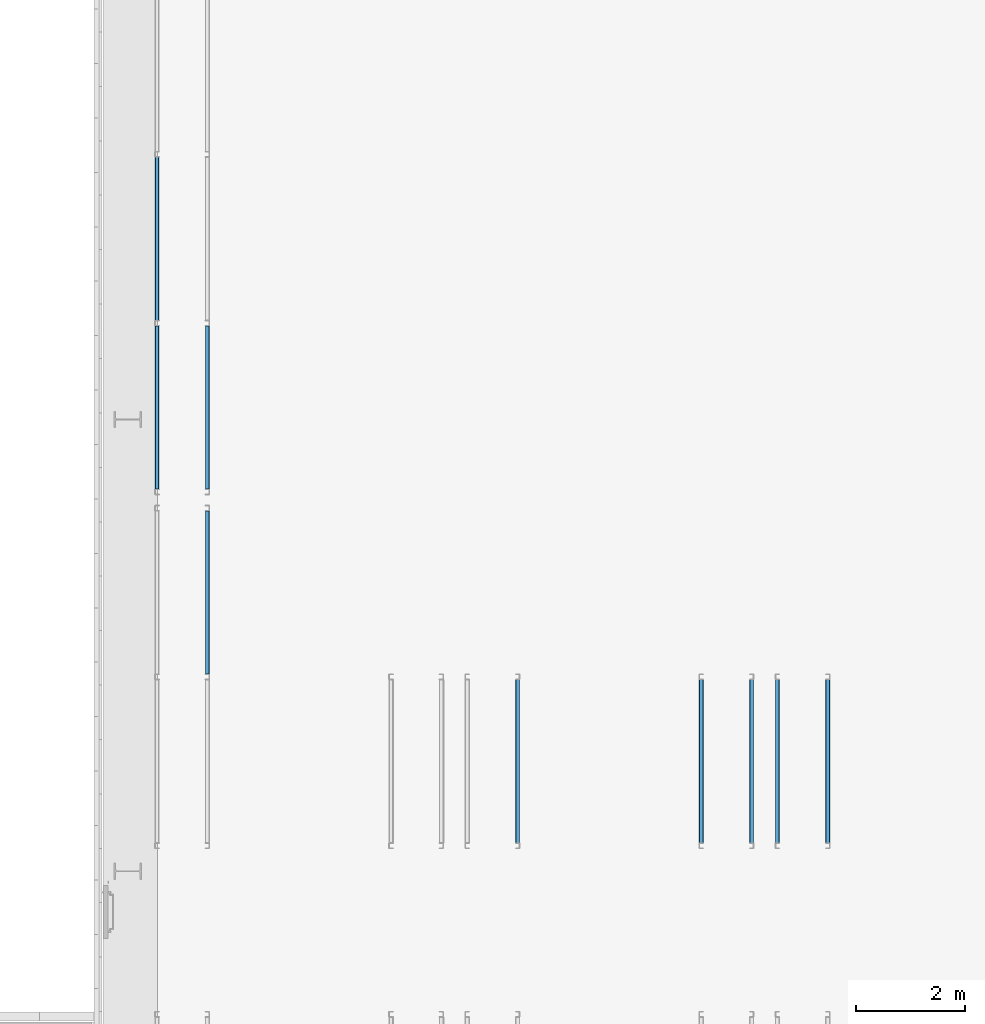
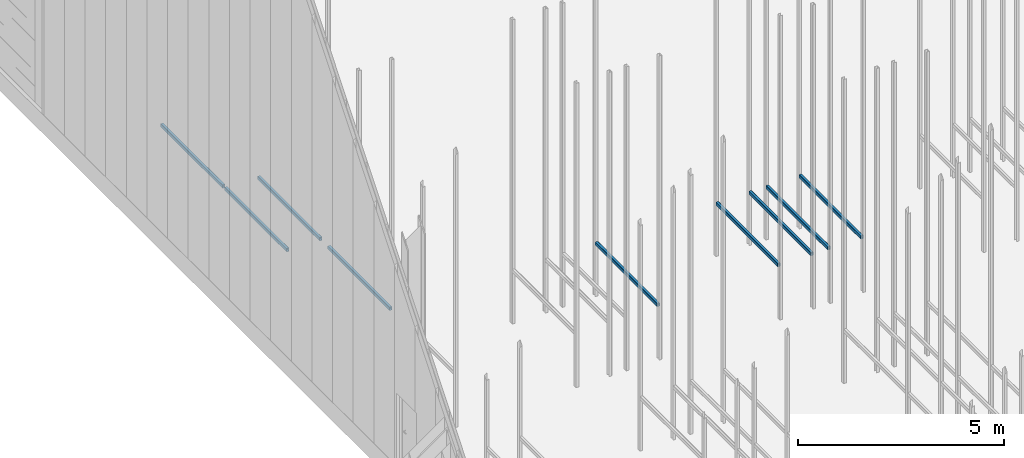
# One storey, part 154 of 302: 9 beams.
"""IFC2X3 building model written with IfcOpenShell, lengths in metres."""

from ifc_helpers import new_model, entity, si_unit, converted_unit, derived_unit, direction, frame, frame_2d, origin, place, context, subcontext, project, spatial, polyline, circle_curve, parameter, trimmed, segment, composite_curve, outline, extrude, material, type_object, element, save


model = new_model("IFC2X3")

# Units and contexts
model_context = context("Model", 3, precision=1e-05, world=origin(), true_north=direction((6.12303176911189e-17, 1.0)))
body_context = subcontext(model_context, "Body", "Model", "MODEL_VIEW")
ifc_project = project(units=[si_unit("LENGTHUNIT", "METRE"), si_unit("AREAUNIT", "SQUARE_METRE"), si_unit("VOLUMEUNIT", "CUBIC_METRE"), converted_unit("PLANEANGLEUNIT", "DEGREE", entity("IfcRatioMeasure", 0.0174532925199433), si_unit("PLANEANGLEUNIT", "RADIAN"), dimensions=[0, 0, 0, 0, 0, 0, 0]), si_unit("MASSUNIT", "GRAM", prefix="KILO"), derived_unit("MASSDENSITYUNIT", [(si_unit("MASSUNIT", "GRAM", prefix="KILO"), 1), (si_unit("LENGTHUNIT", "METRE"), -3)]), derived_unit("MOMENTOFINERTIAUNIT", [(si_unit("LENGTHUNIT", "METRE"), 4)]), si_unit("TIMEUNIT", "SECOND"), si_unit("FREQUENCYUNIT", "HERTZ"), si_unit("THERMODYNAMICTEMPERATUREUNIT", "DEGREE_CELSIUS"), derived_unit("THERMALTRANSMITTANCEUNIT", [(si_unit("MASSUNIT", "GRAM", prefix="KILO"), 1), (si_unit("THERMODYNAMICTEMPERATUREUNIT", "KELVIN"), -1), (si_unit("TIMEUNIT", "SECOND"), -3)]), derived_unit("VOLUMETRICFLOWRATEUNIT", [(si_unit("LENGTHUNIT", "METRE"), 3), (si_unit("TIMEUNIT", "SECOND"), -1)]), si_unit("ELECTRICCURRENTUNIT", "AMPERE"), si_unit("ELECTRICVOLTAGEUNIT", "VOLT"), si_unit("POWERUNIT", "WATT"), si_unit("FORCEUNIT", "NEWTON", prefix="KILO"), si_unit("ILLUMINANCEUNIT", "LUX"), si_unit("LUMINOUSFLUXUNIT", "LUMEN"), si_unit("LUMINOUSINTENSITYUNIT", "CANDELA"), derived_unit("USERDEFINED", [(si_unit("MASSUNIT", "GRAM", prefix="KILO"), -1), (si_unit("LENGTHUNIT", "METRE"), -2), (si_unit("TIMEUNIT", "SECOND"), 3), (si_unit("LUMINOUSFLUXUNIT", "LUMEN"), 1)]), derived_unit("LINEARVELOCITYUNIT", [(si_unit("LENGTHUNIT", "METRE"), 1), (si_unit("TIMEUNIT", "SECOND"), -1)]), si_unit("PRESSUREUNIT", "PASCAL"), derived_unit("USERDEFINED", [(si_unit("LENGTHUNIT", "METRE"), -2), (si_unit("MASSUNIT", "GRAM", prefix="KILO"), 1), (si_unit("TIMEUNIT", "SECOND"), -2)]), derived_unit("LINEARFORCEUNIT", [(si_unit("MASSUNIT", "GRAM", prefix="KILO"), 1), (si_unit("LENGTHUNIT", "METRE"), 1), (si_unit("TIMEUNIT", "SECOND"), -2), (si_unit("LENGTHUNIT", "METRE"), -1)]), derived_unit("PLANARFORCEUNIT", [(si_unit("MASSUNIT", "GRAM", prefix="KILO"), 1), (si_unit("LENGTHUNIT", "METRE"), 1), (si_unit("TIMEUNIT", "SECOND"), -2), (si_unit("LENGTHUNIT", "METRE"), -2)])], contexts=[model_context])

# Site, building, storey
site_placement = place(None, origin())
site = spatial("IfcSite", under=ifc_project, at=site_placement, Name="Default", CompositionType="ELEMENT")
building_placement = place(site_placement, origin())
building = spatial("IfcBuilding", under=site, at=building_placement, CompositionType="ELEMENT")
storey_placement = place(building_placement, frame((0.0, 0.0, -1.3)))
storey = spatial("IfcBuildingStorey", under=building, at=storey_placement, Name="00_EG", CompositionType="ELEMENT", Elevation=-1.3)

# Beams
ifc_material = material(Name="Metall - Baustahl S235 blau")
beam_type = type_object("IfcBeamType", Name="RHS Träger (EN 10219-2):RHS 100 x 75 x 5", PredefinedType="NOTDEFINED")
beam_1_placement = place(storey_placement, frame((-206.415111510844, 58.448088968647, 2.885), z_axis=(0.0, 0.0, 1.0), x_axis=(0.0, 1.0, 0.0)))
element("IfcBeam", 1, at=beam_1_placement, inside=storey, type_object=beam_type, material=ifc_material, Name="RHS Träger (EN 10219-2):RHS 100 x 75 x 5", ObjectType="RHS Träger (EN 10219-2):RHS 100 x 75 x 5", context=body_context, shape_type="SweptSolid", body=[
    extrude(outline(composite_curve([segment(trimmed(circle_curve(frame_2d((-0.0274999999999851, -0.0400000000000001), x_axis=(1.0, 0.0)), 0.01), [parameter(180.0)], [parameter(270.0)], True, "PARAMETER"), True, "CONTINUOUS"), segment(polyline([(-0.0274999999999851, -0.05), (0.0274999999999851, -0.05)]), True, "CONTINUOUS"), segment(trimmed(circle_curve(frame_2d((0.0274999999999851, -0.0400000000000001), x_axis=(1.0, 0.0)), 0.01), [parameter(270.0)], [parameter(5.08888749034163e-14)], True, "PARAMETER"), True, "CONTINUOUS"), segment(polyline([(0.0375000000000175, -0.0399999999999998), (0.0375000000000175, 0.0400000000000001)]), True, "CONTINUOUS"), segment(trimmed(circle_curve(frame_2d((0.0274999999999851, 0.0399999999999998), x_axis=(1.0, 0.0)), 0.01), [parameter(360.0)], [parameter(89.9999999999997)], True, "PARAMETER"), True, "CONTINUOUS"), segment(polyline([(0.0274999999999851, 0.05), (-0.0274999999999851, 0.05)]), True, "CONTINUOUS"), segment(trimmed(circle_curve(frame_2d((-0.0274999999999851, 0.0399999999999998), x_axis=(1.0, 0.0)), 0.01), [parameter(90.0000000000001)], [parameter(180.0)], True, "PARAMETER"), True, "CONTINUOUS"), segment(polyline([(-0.0374999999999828, 0.0400000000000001), (-0.0374999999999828, -0.0399999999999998)]), True, "CONTINUOUS")], self_intersect=False), holes=[composite_curve([segment(polyline([(0.0274999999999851, -0.0450000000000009), (-0.0274999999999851, -0.0450000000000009)]), True, "CONTINUOUS"), segment(trimmed(circle_curve(frame_2d((-0.0274999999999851, -0.0400000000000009), x_axis=(1.0, 0.0)), 0.005), [parameter(180.0)], [parameter(270.0)], True, "PARAMETER"), False, "CONTINUOUS"), segment(polyline([(-0.0325000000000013, -0.0400000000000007), (-0.0325000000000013, 0.0399999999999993)]), True, "CONTINUOUS"), segment(trimmed(circle_curve(frame_2d((-0.0274999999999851, 0.039999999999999), x_axis=(1.0, 0.0)), 0.005), [parameter(90.0000000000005)], [parameter(180.0)], True, "PARAMETER"), False, "CONTINUOUS"), segment(polyline([(-0.0274999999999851, 0.0449999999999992), (0.0274999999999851, 0.0449999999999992)]), True, "CONTINUOUS"), segment(trimmed(circle_curve(frame_2d((0.0274999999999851, 0.039999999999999), x_axis=(1.0, 0.0)), 0.005), [parameter(0.0)], [parameter(90.0000000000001)], True, "PARAMETER"), False, "CONTINUOUS"), segment(polyline([(0.0325000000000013, 0.0399999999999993), (0.0325000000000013, -0.0400000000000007)]), True, "CONTINUOUS"), segment(trimmed(circle_curve(frame_2d((0.0274999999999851, -0.0400000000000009), x_axis=(1.0, 0.0)), 0.005), [parameter(270.0)], [parameter(4.07110999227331e-13)], True, "PARAMETER"), False, "CONTINUOUS")], self_intersect=False)]), frame((0.000100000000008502, 0.0375000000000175, -0.0500000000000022), z_axis=(1.0, 0.0, 0.0), x_axis=(0.0, -1.0, 0.0)), (0.0, 0.0, 1.0), 2.99979999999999),
])
beam_2_placement = place(storey_placement, frame((-206.415111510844, 55.348088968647, 2.885), z_axis=(0.0, 0.0, 1.0), x_axis=(0.0, 1.0, 0.0)))
element("IfcBeam", 2, at=beam_2_placement, inside=storey, type_object=beam_type, material=ifc_material, Name="RHS Träger (EN 10219-2):RHS 100 x 75 x 5", ObjectType="RHS Träger (EN 10219-2):RHS 100 x 75 x 5", context=body_context, shape_type="SweptSolid", body=[
    extrude(outline(composite_curve([segment(trimmed(circle_curve(frame_2d((-0.0274999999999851, -0.0400000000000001), x_axis=(1.0, 0.0)), 0.01), [parameter(180.0)], [parameter(270.0)], True, "PARAMETER"), True, "CONTINUOUS"), segment(polyline([(-0.0274999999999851, -0.05), (0.0274999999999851, -0.05)]), True, "CONTINUOUS"), segment(trimmed(circle_curve(frame_2d((0.0274999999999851, -0.0400000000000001), x_axis=(1.0, 0.0)), 0.01), [parameter(270.0)], [parameter(5.08888749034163e-14)], True, "PARAMETER"), True, "CONTINUOUS"), segment(polyline([(0.0375000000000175, -0.0399999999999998), (0.0375000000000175, 0.0400000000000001)]), True, "CONTINUOUS"), segment(trimmed(circle_curve(frame_2d((0.0274999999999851, 0.0399999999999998), x_axis=(1.0, 0.0)), 0.01), [parameter(360.0)], [parameter(89.9999999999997)], True, "PARAMETER"), True, "CONTINUOUS"), segment(polyline([(0.0274999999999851, 0.05), (-0.0274999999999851, 0.05)]), True, "CONTINUOUS"), segment(trimmed(circle_curve(frame_2d((-0.0274999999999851, 0.0399999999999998), x_axis=(1.0, 0.0)), 0.01), [parameter(90.0000000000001)], [parameter(180.0)], True, "PARAMETER"), True, "CONTINUOUS"), segment(polyline([(-0.0374999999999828, 0.0400000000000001), (-0.0374999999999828, -0.0399999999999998)]), True, "CONTINUOUS")], self_intersect=False), holes=[composite_curve([segment(polyline([(0.0274999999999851, -0.0450000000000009), (-0.0274999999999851, -0.0450000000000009)]), True, "CONTINUOUS"), segment(trimmed(circle_curve(frame_2d((-0.0274999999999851, -0.0400000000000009), x_axis=(1.0, 0.0)), 0.005), [parameter(180.0)], [parameter(270.0)], True, "PARAMETER"), False, "CONTINUOUS"), segment(polyline([(-0.0325000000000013, -0.0400000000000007), (-0.0325000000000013, 0.0399999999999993)]), True, "CONTINUOUS"), segment(trimmed(circle_curve(frame_2d((-0.0274999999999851, 0.039999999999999), x_axis=(1.0, 0.0)), 0.005), [parameter(90.0000000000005)], [parameter(180.0)], True, "PARAMETER"), False, "CONTINUOUS"), segment(polyline([(-0.0274999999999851, 0.0449999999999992), (0.0274999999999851, 0.0449999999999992)]), True, "CONTINUOUS"), segment(trimmed(circle_curve(frame_2d((0.0274999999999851, 0.039999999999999), x_axis=(1.0, 0.0)), 0.005), [parameter(0.0)], [parameter(90.0000000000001)], True, "PARAMETER"), False, "CONTINUOUS"), segment(polyline([(0.0325000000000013, 0.0399999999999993), (0.0325000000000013, -0.0400000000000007)]), True, "CONTINUOUS"), segment(trimmed(circle_curve(frame_2d((0.0274999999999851, -0.0400000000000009), x_axis=(1.0, 0.0)), 0.005), [parameter(270.0)], [parameter(4.07110999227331e-13)], True, "PARAMETER"), False, "CONTINUOUS")], self_intersect=False)]), frame((9.99999999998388e-05, 0.0375000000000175, -0.0500000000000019), z_axis=(1.0, 0.0, 0.0), x_axis=(0.0, -1.0, 0.0)), (0.0, 0.0, 1.0), 2.99979999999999),
])
beam_3_placement = place(storey_placement, frame((-205.565111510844, 55.348088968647, 2.885), z_axis=(0.0, 0.0, 1.0), x_axis=(0.0, 1.0, 0.0)))
element("IfcBeam", 3, at=beam_3_placement, inside=storey, type_object=beam_type, material=ifc_material, Name="RHS Träger (EN 10219-2):RHS 100 x 75 x 5", ObjectType="RHS Träger (EN 10219-2):RHS 100 x 75 x 5", context=body_context, shape_type="SweptSolid", body=[
    extrude(outline(composite_curve([segment(polyline([(-0.0399999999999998, -0.0374999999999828), (0.0400000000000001, -0.0374999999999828)]), True, "CONTINUOUS"), segment(trimmed(circle_curve(frame_2d((0.0399999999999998, -0.0274999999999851), x_axis=(0.0, 1.0)), 0.01), [parameter(180.0)], [parameter(270.0)], True, "PARAMETER"), True, "CONTINUOUS"), segment(polyline([(0.05, -0.0274999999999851), (0.05, 0.0274999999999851)]), True, "CONTINUOUS"), segment(trimmed(circle_curve(frame_2d((0.0399999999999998, 0.0274999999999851), x_axis=(0.0, 1.0)), 0.01), [parameter(270.0)], [parameter(4.07110999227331e-13)], True, "PARAMETER"), True, "CONTINUOUS"), segment(polyline([(0.0400000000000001, 0.0375000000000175), (-0.0399999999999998, 0.0375000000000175)]), True, "CONTINUOUS"), segment(trimmed(circle_curve(frame_2d((-0.0400000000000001, 0.0274999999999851), x_axis=(0.0, 1.0)), 0.01), [parameter(360.0)], [parameter(90.0000000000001)], True, "PARAMETER"), True, "CONTINUOUS"), segment(polyline([(-0.05, 0.0274999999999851), (-0.05, -0.0274999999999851)]), True, "CONTINUOUS"), segment(trimmed(circle_curve(frame_2d((-0.0400000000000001, -0.0274999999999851), x_axis=(0.0, 1.0)), 0.01), [parameter(90.0000000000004)], [parameter(180.0)], True, "PARAMETER"), True, "CONTINUOUS")], self_intersect=False), holes=[composite_curve([segment(trimmed(circle_curve(frame_2d((-0.0400000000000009, 0.0274999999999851), x_axis=(0.0, 1.0)), 0.005), [parameter(360.0)], [parameter(89.9999999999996)], True, "PARAMETER"), False, "CONTINUOUS"), segment(polyline([(-0.0400000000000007, 0.0325000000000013), (0.0399999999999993, 0.0325000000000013)]), True, "CONTINUOUS"), segment(trimmed(circle_curve(frame_2d((0.039999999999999, 0.0274999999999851), x_axis=(0.0, 1.0)), 0.005), [parameter(270.0)], [parameter(0.0)], True, "PARAMETER"), False, "CONTINUOUS"), segment(polyline([(0.0449999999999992, 0.0274999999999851), (0.0449999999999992, -0.0274999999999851)]), True, "CONTINUOUS"), segment(trimmed(circle_curve(frame_2d((0.039999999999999, -0.0274999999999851), x_axis=(0.0, 1.0)), 0.005), [parameter(180.0)], [parameter(269.999999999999)], True, "PARAMETER"), False, "CONTINUOUS"), segment(polyline([(0.0399999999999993, -0.0325000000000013), (-0.0400000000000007, -0.0325000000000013)]), True, "CONTINUOUS"), segment(trimmed(circle_curve(frame_2d((-0.0400000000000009, -0.0274999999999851), x_axis=(0.0, 1.0)), 0.005), [parameter(90.0000000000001)], [parameter(180.0)], True, "PARAMETER"), False, "CONTINUOUS"), segment(polyline([(-0.0450000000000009, -0.0274999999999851), (-0.0450000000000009, 0.0274999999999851)]), True, "CONTINUOUS")], self_intersect=False)]), frame((9.99999999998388e-05, -0.0375000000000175, -0.0500000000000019), z_axis=(1.0, 0.0, 0.0), x_axis=(0.0, 0.0, -1.0)), (0.0, 0.0, 1.0), 2.99979999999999),
])
beam_4_placement = place(storey_placement, frame((-196.415111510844, 48.848088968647, 2.885), z_axis=(0.0, 0.0, 1.0), x_axis=(0.0, 1.0, 0.0)))
element("IfcBeam", 4, at=beam_4_placement, inside=storey, type_object=beam_type, material=ifc_material, Name="RHS Träger (EN 10219-2):RHS 100 x 75 x 5", ObjectType="RHS Träger (EN 10219-2):RHS 100 x 75 x 5", context=body_context, shape_type="SweptSolid", body=[
    extrude(outline(composite_curve([segment(trimmed(circle_curve(frame_2d((-0.0274999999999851, -0.0400000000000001), x_axis=(1.0, 0.0)), 0.01), [parameter(180.0)], [parameter(270.0)], True, "PARAMETER"), True, "CONTINUOUS"), segment(polyline([(-0.0274999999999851, -0.05), (0.0274999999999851, -0.05)]), True, "CONTINUOUS"), segment(trimmed(circle_curve(frame_2d((0.0274999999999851, -0.0400000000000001), x_axis=(1.0, 0.0)), 0.01), [parameter(270.0)], [parameter(5.08888749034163e-14)], True, "PARAMETER"), True, "CONTINUOUS"), segment(polyline([(0.0375000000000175, -0.0399999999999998), (0.0375000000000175, 0.0400000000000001)]), True, "CONTINUOUS"), segment(trimmed(circle_curve(frame_2d((0.0274999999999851, 0.0399999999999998), x_axis=(1.0, 0.0)), 0.01), [parameter(360.0)], [parameter(89.9999999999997)], True, "PARAMETER"), True, "CONTINUOUS"), segment(polyline([(0.0274999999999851, 0.05), (-0.0274999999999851, 0.05)]), True, "CONTINUOUS"), segment(trimmed(circle_curve(frame_2d((-0.0274999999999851, 0.0399999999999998), x_axis=(1.0, 0.0)), 0.01), [parameter(90.0000000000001)], [parameter(180.0)], True, "PARAMETER"), True, "CONTINUOUS"), segment(polyline([(-0.0374999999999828, 0.0400000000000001), (-0.0374999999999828, -0.0399999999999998)]), True, "CONTINUOUS")], self_intersect=False), holes=[composite_curve([segment(polyline([(0.0274999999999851, -0.0450000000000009), (-0.0274999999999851, -0.0450000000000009)]), True, "CONTINUOUS"), segment(trimmed(circle_curve(frame_2d((-0.0274999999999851, -0.0400000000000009), x_axis=(1.0, 0.0)), 0.005), [parameter(180.0)], [parameter(270.0)], True, "PARAMETER"), False, "CONTINUOUS"), segment(polyline([(-0.0325000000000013, -0.0400000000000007), (-0.0325000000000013, 0.0399999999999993)]), True, "CONTINUOUS"), segment(trimmed(circle_curve(frame_2d((-0.0274999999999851, 0.039999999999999), x_axis=(1.0, 0.0)), 0.005), [parameter(90.0000000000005)], [parameter(180.0)], True, "PARAMETER"), False, "CONTINUOUS"), segment(polyline([(-0.0274999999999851, 0.0449999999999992), (0.0274999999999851, 0.0449999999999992)]), True, "CONTINUOUS"), segment(trimmed(circle_curve(frame_2d((0.0274999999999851, 0.039999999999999), x_axis=(1.0, 0.0)), 0.005), [parameter(0.0)], [parameter(90.0000000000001)], True, "PARAMETER"), False, "CONTINUOUS"), segment(polyline([(0.0325000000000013, 0.0399999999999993), (0.0325000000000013, -0.0400000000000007)]), True, "CONTINUOUS"), segment(trimmed(circle_curve(frame_2d((0.0274999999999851, -0.0400000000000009), x_axis=(1.0, 0.0)), 0.005), [parameter(270.0)], [parameter(4.07110999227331e-13)], True, "PARAMETER"), False, "CONTINUOUS")], self_intersect=False)]), frame((0.000100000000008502, 0.0375000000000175, -0.0500000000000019), z_axis=(1.0, 0.0, 0.0), x_axis=(0.0, -1.0, 0.0)), (0.0, 0.0, 1.0), 2.99979999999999),
])
beam_5_placement = place(storey_placement, frame((-195.565111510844, 48.848088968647, 2.885), z_axis=(0.0, 0.0, 1.0), x_axis=(0.0, 1.0, 0.0)))
element("IfcBeam", 5, at=beam_5_placement, inside=storey, type_object=beam_type, material=ifc_material, Name="RHS Träger (EN 10219-2):RHS 100 x 75 x 5", ObjectType="RHS Träger (EN 10219-2):RHS 100 x 75 x 5", context=body_context, shape_type="SweptSolid", body=[
    extrude(outline(composite_curve([segment(polyline([(-0.0399999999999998, -0.0374999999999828), (0.0400000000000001, -0.0374999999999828)]), True, "CONTINUOUS"), segment(trimmed(circle_curve(frame_2d((0.0399999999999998, -0.0274999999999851), x_axis=(0.0, 1.0)), 0.01), [parameter(180.0)], [parameter(270.0)], True, "PARAMETER"), True, "CONTINUOUS"), segment(polyline([(0.05, -0.0274999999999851), (0.05, 0.0274999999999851)]), True, "CONTINUOUS"), segment(trimmed(circle_curve(frame_2d((0.0399999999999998, 0.0274999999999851), x_axis=(0.0, 1.0)), 0.01), [parameter(270.0)], [parameter(4.07110999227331e-13)], True, "PARAMETER"), True, "CONTINUOUS"), segment(polyline([(0.0400000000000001, 0.0375000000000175), (-0.0399999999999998, 0.0375000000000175)]), True, "CONTINUOUS"), segment(trimmed(circle_curve(frame_2d((-0.0400000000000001, 0.0274999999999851), x_axis=(0.0, 1.0)), 0.01), [parameter(360.0)], [parameter(90.0000000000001)], True, "PARAMETER"), True, "CONTINUOUS"), segment(polyline([(-0.05, 0.0274999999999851), (-0.05, -0.0274999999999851)]), True, "CONTINUOUS"), segment(trimmed(circle_curve(frame_2d((-0.0400000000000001, -0.0274999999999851), x_axis=(0.0, 1.0)), 0.01), [parameter(90.0000000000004)], [parameter(180.0)], True, "PARAMETER"), True, "CONTINUOUS")], self_intersect=False), holes=[composite_curve([segment(trimmed(circle_curve(frame_2d((-0.0400000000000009, 0.0274999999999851), x_axis=(0.0, 1.0)), 0.005), [parameter(360.0)], [parameter(89.9999999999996)], True, "PARAMETER"), False, "CONTINUOUS"), segment(polyline([(-0.0400000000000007, 0.0325000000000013), (0.0399999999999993, 0.0325000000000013)]), True, "CONTINUOUS"), segment(trimmed(circle_curve(frame_2d((0.039999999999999, 0.0274999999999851), x_axis=(0.0, 1.0)), 0.005), [parameter(270.0)], [parameter(0.0)], True, "PARAMETER"), False, "CONTINUOUS"), segment(polyline([(0.0449999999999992, 0.0274999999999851), (0.0449999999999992, -0.0274999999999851)]), True, "CONTINUOUS"), segment(trimmed(circle_curve(frame_2d((0.039999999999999, -0.0274999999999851), x_axis=(0.0, 1.0)), 0.005), [parameter(180.0)], [parameter(269.999999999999)], True, "PARAMETER"), False, "CONTINUOUS"), segment(polyline([(0.0399999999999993, -0.0325000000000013), (-0.0400000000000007, -0.0325000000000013)]), True, "CONTINUOUS"), segment(trimmed(circle_curve(frame_2d((-0.0400000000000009, -0.0274999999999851), x_axis=(0.0, 1.0)), 0.005), [parameter(90.0000000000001)], [parameter(180.0)], True, "PARAMETER"), False, "CONTINUOUS"), segment(polyline([(-0.0450000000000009, -0.0274999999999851), (-0.0450000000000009, 0.0274999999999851)]), True, "CONTINUOUS")], self_intersect=False)]), frame((0.000100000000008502, -0.0375000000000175, -0.0500000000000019), z_axis=(1.0, 0.0, 0.0), x_axis=(0.0, 0.0, -1.0)), (0.0, 0.0, 1.0), 2.99979999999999),
])
beam_6_placement = place(storey_placement, frame((-195.015111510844, 48.848088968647, 2.885), z_axis=(0.0, 0.0, 1.0), x_axis=(0.0, 1.0, 0.0)))
element("IfcBeam", 6, at=beam_6_placement, inside=storey, type_object=beam_type, material=ifc_material, Name="RHS Träger (EN 10219-2):RHS 100 x 75 x 5", ObjectType="RHS Träger (EN 10219-2):RHS 100 x 75 x 5", context=body_context, shape_type="SweptSolid", body=[
    extrude(outline(composite_curve([segment(trimmed(circle_curve(frame_2d((-0.0275000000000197, -0.0400000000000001), x_axis=(1.0, 0.0)), 0.01), [parameter(180.0)], [parameter(270.0)], True, "PARAMETER"), True, "CONTINUOUS"), segment(polyline([(-0.0275000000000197, -0.05), (0.0274999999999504, -0.05)]), True, "CONTINUOUS"), segment(trimmed(circle_curve(frame_2d((0.0274999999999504, -0.0400000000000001), x_axis=(1.0, 0.0)), 0.01), [parameter(270.0)], [parameter(5.08888749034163e-14)], True, "PARAMETER"), True, "CONTINUOUS"), segment(polyline([(0.0374999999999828, -0.0399999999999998), (0.0374999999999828, 0.0400000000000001)]), True, "CONTINUOUS"), segment(trimmed(circle_curve(frame_2d((0.0274999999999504, 0.0399999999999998), x_axis=(1.0, 0.0)), 0.01), [parameter(360.0)], [parameter(89.9999999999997)], True, "PARAMETER"), True, "CONTINUOUS"), segment(polyline([(0.0274999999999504, 0.05), (-0.0275000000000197, 0.05)]), True, "CONTINUOUS"), segment(trimmed(circle_curve(frame_2d((-0.0275000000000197, 0.0399999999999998), x_axis=(1.0, 0.0)), 0.01), [parameter(90.0000000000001)], [parameter(180.0)], True, "PARAMETER"), True, "CONTINUOUS"), segment(polyline([(-0.0375000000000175, 0.0400000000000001), (-0.0375000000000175, -0.0399999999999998)]), True, "CONTINUOUS")], self_intersect=False), holes=[composite_curve([segment(polyline([(0.0274999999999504, -0.0450000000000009), (-0.0275000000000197, -0.0450000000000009)]), True, "CONTINUOUS"), segment(trimmed(circle_curve(frame_2d((-0.0275000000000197, -0.0400000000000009), x_axis=(1.0, 0.0)), 0.005), [parameter(180.0)], [parameter(270.0)], True, "PARAMETER"), False, "CONTINUOUS"), segment(polyline([(-0.0325000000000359, -0.0400000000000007), (-0.0325000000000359, 0.0399999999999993)]), True, "CONTINUOUS"), segment(trimmed(circle_curve(frame_2d((-0.0275000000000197, 0.039999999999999), x_axis=(1.0, 0.0)), 0.005), [parameter(90.0000000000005)], [parameter(180.0)], True, "PARAMETER"), False, "CONTINUOUS"), segment(polyline([(-0.0275000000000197, 0.0449999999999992), (0.0274999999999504, 0.0449999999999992)]), True, "CONTINUOUS"), segment(trimmed(circle_curve(frame_2d((0.0274999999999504, 0.039999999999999), x_axis=(1.0, 0.0)), 0.005), [parameter(0.0)], [parameter(90.0000000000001)], True, "PARAMETER"), False, "CONTINUOUS"), segment(polyline([(0.0324999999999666, 0.0399999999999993), (0.0324999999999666, -0.0400000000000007)]), True, "CONTINUOUS"), segment(trimmed(circle_curve(frame_2d((0.0274999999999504, -0.0400000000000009), x_axis=(1.0, 0.0)), 0.005), [parameter(270.0)], [parameter(4.07110999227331e-13)], True, "PARAMETER"), False, "CONTINUOUS")], self_intersect=False)]), frame((9.99999999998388e-05, 0.0374999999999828, -0.0500000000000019), z_axis=(1.0, 0.0, 0.0), x_axis=(0.0, -1.0, 0.0)), (0.0, 0.0, 1.0), 2.99979999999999),
])
beam_7_placement = place(storey_placement, frame((-194.165111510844, 48.848088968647, 2.885), z_axis=(0.0, 0.0, 1.0), x_axis=(0.0, 1.0, 0.0)))
element("IfcBeam", 7, at=beam_7_placement, inside=storey, type_object=beam_type, material=ifc_material, Name="RHS Träger (EN 10219-2):RHS 100 x 75 x 5", ObjectType="RHS Träger (EN 10219-2):RHS 100 x 75 x 5", context=body_context, shape_type="SweptSolid", body=[
    extrude(outline(composite_curve([segment(polyline([(-0.0399999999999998, -0.0374999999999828), (0.0400000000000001, -0.0374999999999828)]), True, "CONTINUOUS"), segment(trimmed(circle_curve(frame_2d((0.0399999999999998, -0.0274999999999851), x_axis=(0.0, 1.0)), 0.01), [parameter(180.0)], [parameter(270.0)], True, "PARAMETER"), True, "CONTINUOUS"), segment(polyline([(0.05, -0.0274999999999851), (0.05, 0.0274999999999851)]), True, "CONTINUOUS"), segment(trimmed(circle_curve(frame_2d((0.0399999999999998, 0.0274999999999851), x_axis=(0.0, 1.0)), 0.01), [parameter(270.0)], [parameter(4.07110999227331e-13)], True, "PARAMETER"), True, "CONTINUOUS"), segment(polyline([(0.0400000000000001, 0.0375000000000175), (-0.0399999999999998, 0.0375000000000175)]), True, "CONTINUOUS"), segment(trimmed(circle_curve(frame_2d((-0.0400000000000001, 0.0274999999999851), x_axis=(0.0, 1.0)), 0.01), [parameter(360.0)], [parameter(90.0000000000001)], True, "PARAMETER"), True, "CONTINUOUS"), segment(polyline([(-0.05, 0.0274999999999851), (-0.05, -0.0274999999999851)]), True, "CONTINUOUS"), segment(trimmed(circle_curve(frame_2d((-0.0400000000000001, -0.0274999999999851), x_axis=(0.0, 1.0)), 0.01), [parameter(90.0000000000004)], [parameter(180.0)], True, "PARAMETER"), True, "CONTINUOUS")], self_intersect=False), holes=[composite_curve([segment(trimmed(circle_curve(frame_2d((-0.0400000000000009, 0.0274999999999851), x_axis=(0.0, 1.0)), 0.005), [parameter(360.0)], [parameter(89.9999999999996)], True, "PARAMETER"), False, "CONTINUOUS"), segment(polyline([(-0.0400000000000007, 0.0325000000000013), (0.0399999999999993, 0.0325000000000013)]), True, "CONTINUOUS"), segment(trimmed(circle_curve(frame_2d((0.039999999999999, 0.0274999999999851), x_axis=(0.0, 1.0)), 0.005), [parameter(270.0)], [parameter(0.0)], True, "PARAMETER"), False, "CONTINUOUS"), segment(polyline([(0.0449999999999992, 0.0274999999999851), (0.0449999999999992, -0.0274999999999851)]), True, "CONTINUOUS"), segment(trimmed(circle_curve(frame_2d((0.039999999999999, -0.0274999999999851), x_axis=(0.0, 1.0)), 0.005), [parameter(180.0)], [parameter(269.999999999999)], True, "PARAMETER"), False, "CONTINUOUS"), segment(polyline([(0.0399999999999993, -0.0325000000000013), (-0.0400000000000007, -0.0325000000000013)]), True, "CONTINUOUS"), segment(trimmed(circle_curve(frame_2d((-0.0400000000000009, -0.0274999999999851), x_axis=(0.0, 1.0)), 0.005), [parameter(90.0000000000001)], [parameter(180.0)], True, "PARAMETER"), False, "CONTINUOUS"), segment(polyline([(-0.0450000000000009, -0.0274999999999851), (-0.0450000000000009, 0.0274999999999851)]), True, "CONTINUOUS")], self_intersect=False)]), frame((9.99999999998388e-05, -0.0375000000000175, -0.0500000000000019), z_axis=(1.0, 0.0, 0.0), x_axis=(0.0, 0.0, -1.0)), (0.0, 0.0, 1.0), 2.99979999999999),
])
beam_8_placement = place(storey_placement, frame((-199.865111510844, 48.848088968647, 2.885), z_axis=(0.0, 0.0, 1.0), x_axis=(0.0, 1.0, 0.0)))
element("IfcBeam", 8, at=beam_8_placement, inside=storey, type_object=beam_type, material=ifc_material, Name="RHS Träger (EN 10219-2):RHS 100 x 75 x 5", ObjectType="RHS Träger (EN 10219-2):RHS 100 x 75 x 5", context=body_context, shape_type="SweptSolid", body=[
    extrude(outline(composite_curve([segment(polyline([(-0.0399999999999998, -0.0374999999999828), (0.0400000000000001, -0.0374999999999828)]), True, "CONTINUOUS"), segment(trimmed(circle_curve(frame_2d((0.0399999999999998, -0.0274999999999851), x_axis=(0.0, 1.0)), 0.01), [parameter(180.0)], [parameter(270.0)], True, "PARAMETER"), True, "CONTINUOUS"), segment(polyline([(0.05, -0.0274999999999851), (0.05, 0.0274999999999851)]), True, "CONTINUOUS"), segment(trimmed(circle_curve(frame_2d((0.0399999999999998, 0.0274999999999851), x_axis=(0.0, 1.0)), 0.01), [parameter(270.0)], [parameter(4.07110999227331e-13)], True, "PARAMETER"), True, "CONTINUOUS"), segment(polyline([(0.0400000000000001, 0.0375000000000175), (-0.0399999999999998, 0.0375000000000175)]), True, "CONTINUOUS"), segment(trimmed(circle_curve(frame_2d((-0.0400000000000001, 0.0274999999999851), x_axis=(0.0, 1.0)), 0.01), [parameter(360.0)], [parameter(90.0000000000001)], True, "PARAMETER"), True, "CONTINUOUS"), segment(polyline([(-0.05, 0.0274999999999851), (-0.05, -0.0274999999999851)]), True, "CONTINUOUS"), segment(trimmed(circle_curve(frame_2d((-0.0400000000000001, -0.0274999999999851), x_axis=(0.0, 1.0)), 0.01), [parameter(90.0000000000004)], [parameter(180.0)], True, "PARAMETER"), True, "CONTINUOUS")], self_intersect=False), holes=[composite_curve([segment(trimmed(circle_curve(frame_2d((-0.0400000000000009, 0.0274999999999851), x_axis=(0.0, 1.0)), 0.005), [parameter(360.0)], [parameter(89.9999999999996)], True, "PARAMETER"), False, "CONTINUOUS"), segment(polyline([(-0.0400000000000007, 0.0325000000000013), (0.0399999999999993, 0.0325000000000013)]), True, "CONTINUOUS"), segment(trimmed(circle_curve(frame_2d((0.039999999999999, 0.0274999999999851), x_axis=(0.0, 1.0)), 0.005), [parameter(270.0)], [parameter(0.0)], True, "PARAMETER"), False, "CONTINUOUS"), segment(polyline([(0.0449999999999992, 0.0274999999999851), (0.0449999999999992, -0.0274999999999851)]), True, "CONTINUOUS"), segment(trimmed(circle_curve(frame_2d((0.039999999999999, -0.0274999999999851), x_axis=(0.0, 1.0)), 0.005), [parameter(180.0)], [parameter(269.999999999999)], True, "PARAMETER"), False, "CONTINUOUS"), segment(polyline([(0.0399999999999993, -0.0325000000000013), (-0.0400000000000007, -0.0325000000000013)]), True, "CONTINUOUS"), segment(trimmed(circle_curve(frame_2d((-0.0400000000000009, -0.0274999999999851), x_axis=(0.0, 1.0)), 0.005), [parameter(90.0000000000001)], [parameter(180.0)], True, "PARAMETER"), False, "CONTINUOUS"), segment(polyline([(-0.0450000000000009, -0.0274999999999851), (-0.0450000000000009, 0.0274999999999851)]), True, "CONTINUOUS")], self_intersect=False)]), frame((0.000100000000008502, -0.0375000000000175, -0.0500000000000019), z_axis=(1.0, 0.0, 0.0), x_axis=(0.0, 0.0, -1.0)), (0.0, 0.0, 1.0), 2.99979999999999),
])
beam_9_placement = place(storey_placement, frame((-205.565111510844, 51.948088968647, 2.885), z_axis=(0.0, 0.0, 1.0), x_axis=(0.0, 1.0, 0.0)))
element("IfcBeam", 9, at=beam_9_placement, inside=storey, type_object=beam_type, material=ifc_material, Name="RHS Träger (EN 10219-2):RHS 100 x 75 x 5", ObjectType="RHS Träger (EN 10219-2):RHS 100 x 75 x 5", context=body_context, shape_type="SweptSolid", body=[
    extrude(outline(composite_curve([segment(polyline([(-0.0399999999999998, -0.0374999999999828), (0.0400000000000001, -0.0374999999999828)]), True, "CONTINUOUS"), segment(trimmed(circle_curve(frame_2d((0.0399999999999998, -0.0274999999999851), x_axis=(0.0, 1.0)), 0.01), [parameter(180.0)], [parameter(270.0)], True, "PARAMETER"), True, "CONTINUOUS"), segment(polyline([(0.05, -0.0274999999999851), (0.05, 0.0274999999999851)]), True, "CONTINUOUS"), segment(trimmed(circle_curve(frame_2d((0.0399999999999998, 0.0274999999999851), x_axis=(0.0, 1.0)), 0.01), [parameter(270.0)], [parameter(4.07110999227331e-13)], True, "PARAMETER"), True, "CONTINUOUS"), segment(polyline([(0.0400000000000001, 0.0375000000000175), (-0.0399999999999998, 0.0375000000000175)]), True, "CONTINUOUS"), segment(trimmed(circle_curve(frame_2d((-0.0400000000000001, 0.0274999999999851), x_axis=(0.0, 1.0)), 0.01), [parameter(360.0)], [parameter(90.0000000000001)], True, "PARAMETER"), True, "CONTINUOUS"), segment(polyline([(-0.05, 0.0274999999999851), (-0.05, -0.0274999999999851)]), True, "CONTINUOUS"), segment(trimmed(circle_curve(frame_2d((-0.0400000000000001, -0.0274999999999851), x_axis=(0.0, 1.0)), 0.01), [parameter(90.0000000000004)], [parameter(180.0)], True, "PARAMETER"), True, "CONTINUOUS")], self_intersect=False), holes=[composite_curve([segment(trimmed(circle_curve(frame_2d((-0.0400000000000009, 0.0274999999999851), x_axis=(0.0, 1.0)), 0.005), [parameter(360.0)], [parameter(89.9999999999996)], True, "PARAMETER"), False, "CONTINUOUS"), segment(polyline([(-0.0400000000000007, 0.0325000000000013), (0.0399999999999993, 0.0325000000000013)]), True, "CONTINUOUS"), segment(trimmed(circle_curve(frame_2d((0.039999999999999, 0.0274999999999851), x_axis=(0.0, 1.0)), 0.005), [parameter(270.0)], [parameter(0.0)], True, "PARAMETER"), False, "CONTINUOUS"), segment(polyline([(0.0449999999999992, 0.0274999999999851), (0.0449999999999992, -0.0274999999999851)]), True, "CONTINUOUS"), segment(trimmed(circle_curve(frame_2d((0.039999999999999, -0.0274999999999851), x_axis=(0.0, 1.0)), 0.005), [parameter(180.0)], [parameter(269.999999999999)], True, "PARAMETER"), False, "CONTINUOUS"), segment(polyline([(0.0399999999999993, -0.0325000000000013), (-0.0400000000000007, -0.0325000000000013)]), True, "CONTINUOUS"), segment(trimmed(circle_curve(frame_2d((-0.0400000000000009, -0.0274999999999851), x_axis=(0.0, 1.0)), 0.005), [parameter(90.0000000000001)], [parameter(180.0)], True, "PARAMETER"), False, "CONTINUOUS"), segment(polyline([(-0.0450000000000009, -0.0274999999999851), (-0.0450000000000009, 0.0274999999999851)]), True, "CONTINUOUS")], self_intersect=False)]), frame((9.99999999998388e-05, -0.0375000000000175, -0.0500000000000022), z_axis=(1.0, 0.0, 0.0), x_axis=(0.0, 0.0, -1.0)), (0.0, 0.0, 1.0), 2.99979999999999),
])

save(model, "model.ifc")
